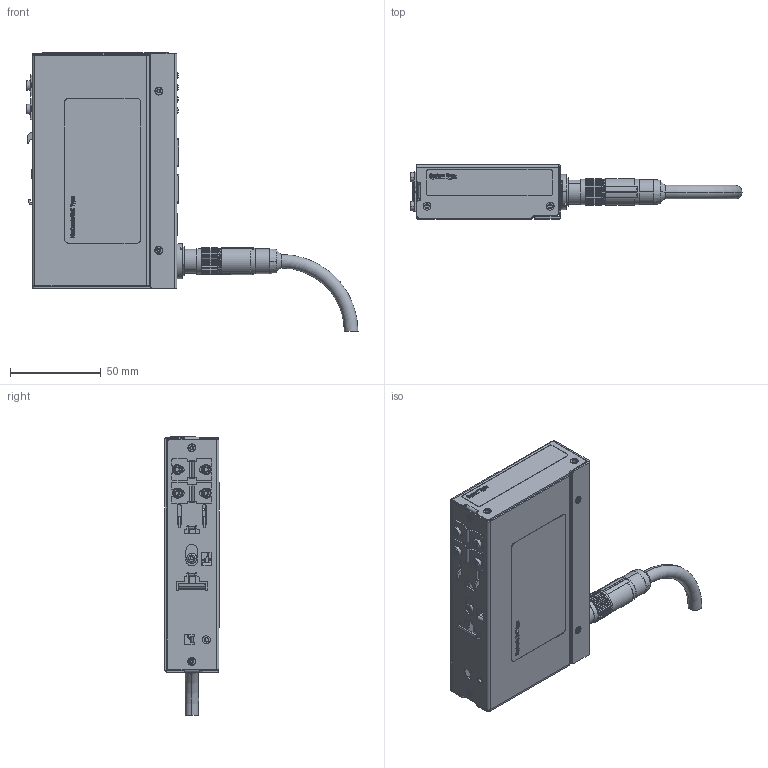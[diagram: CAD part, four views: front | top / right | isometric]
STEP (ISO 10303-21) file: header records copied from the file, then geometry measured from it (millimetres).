
FILE_DESCRIPTION((''),'2;1');
FILE_NAME('HUELLE_SW0001','2020-03-13T08:28:54',('scheu-1'),(''),'CREO PARAMETRIC BY PTC INC, 2018260','CREO PARAMETRIC BY PTC INC, 2018260','');
FILE_SCHEMA(('CONFIG_CONTROL_DESIGN'));
Products named in the file (1): HUELLE_SW0001
Bounding box: 183.4 x 30.2 x 153.95 mm (x, y, z)
Volume: 70714.3 mm3; surface area: 104926.9 mm2
Topology: 1 solids, 13 shells, 4847 faces, 13554 edges, 8717 vertices
Faces by surface type: plane 2876, cylinder 1332, extrusion 245, bspline 152, cone 108, torus 86, sphere 48
Entity records: 178229 total; most frequent: CARTESIAN_POINT 53244, ORIENTED_EDGE 27012, DIRECTION 24594, EDGE_CURVE 13506, VECTOR 9522, LINE 9277, VERTEX_POINT 8718, AXIS2_PLACEMENT_3D 7536
